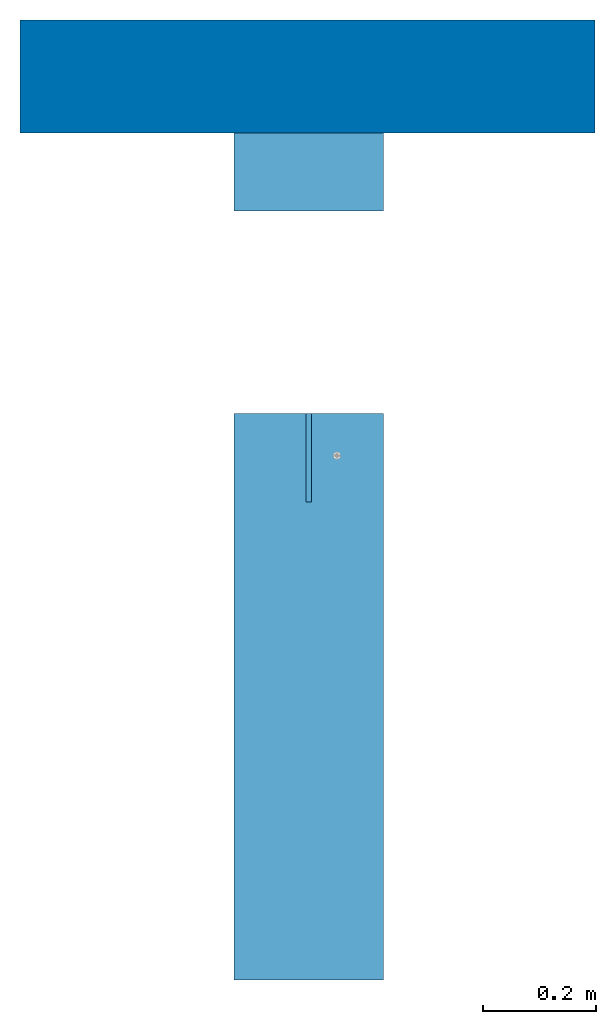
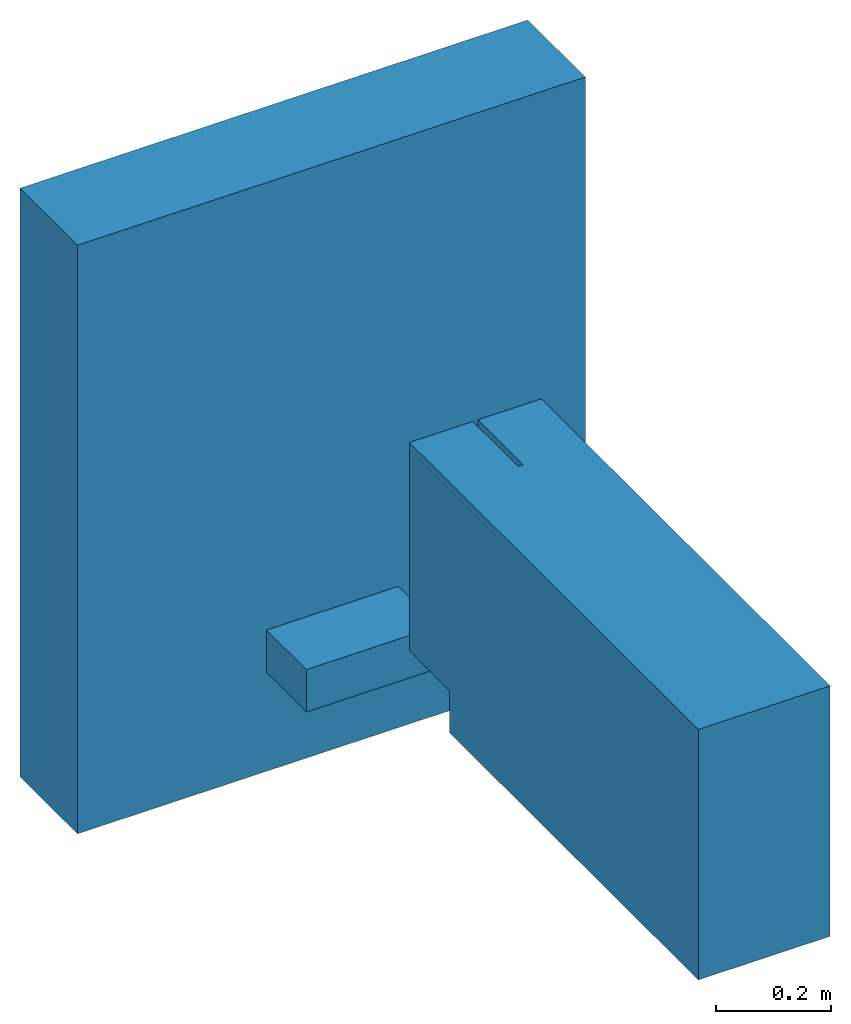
# One storey, part 1 of 2: 2 beams, 1 wall.
"""IFC2X3 building model written with IfcOpenShell, lengths in millimetres."""

from ifc_helpers import new_model, entity, si_unit, converted_unit, derived_unit, direction, frame, frame_2d, origin, place, context, subcontext, project, spatial, rectangle, extrude, faceted_brep, material, layer, layer_set, layer_usage, type_object, element, save


model = new_model("IFC2X3")

# Units and contexts
model_context = context("Model", 3, precision=0.01, world=origin(), true_north=direction((6.123031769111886e-17, 1.0)))
body_context = subcontext(model_context, "Body", "Model", "MODEL_VIEW")
ifc_project = project(units=[si_unit("LENGTHUNIT", "METRE", prefix="MILLI"), si_unit("AREAUNIT", "SQUARE_METRE"), si_unit("VOLUMEUNIT", "CUBIC_METRE"), converted_unit("PLANEANGLEUNIT", "DEGREE", entity("IfcPlaneAngleMeasure", 0.017453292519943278), si_unit("PLANEANGLEUNIT", "RADIAN"), dimensions=[0, 0, 0, 0, 0, 0, 0]), si_unit("MASSUNIT", "GRAM", prefix="KILO"), derived_unit("MASSDENSITYUNIT", [(si_unit("MASSUNIT", "GRAM", prefix="KILO"), 1), (si_unit("LENGTHUNIT", "METRE"), -3)]), derived_unit("IONCONCENTRATIONUNIT", [(si_unit("MASSUNIT", "GRAM", prefix="KILO"), 1), (si_unit("LENGTHUNIT", "METRE"), -3)]), derived_unit("MOMENTOFINERTIAUNIT", [(si_unit("LENGTHUNIT", "METRE"), 4)]), si_unit("TIMEUNIT", "SECOND"), si_unit("FREQUENCYUNIT", "HERTZ"), si_unit("THERMODYNAMICTEMPERATUREUNIT", "DEGREE_CELSIUS"), derived_unit("THERMALTRANSMITTANCEUNIT", [(si_unit("MASSUNIT", "GRAM", prefix="KILO"), 1), (si_unit("THERMODYNAMICTEMPERATUREUNIT", "KELVIN"), -1), (si_unit("TIMEUNIT", "SECOND"), -3)]), derived_unit("THERMALCONDUCTANCEUNIT", [(si_unit("MASSUNIT", "GRAM", prefix="KILO"), 1), (si_unit("THERMODYNAMICTEMPERATUREUNIT", "KELVIN"), -1), (si_unit("TIMEUNIT", "SECOND"), -3), (si_unit("LENGTHUNIT", "METRE"), 1)]), derived_unit("VOLUMETRICFLOWRATEUNIT", [(si_unit("LENGTHUNIT", "METRE", prefix="DECI"), 3), (si_unit("TIMEUNIT", "SECOND"), -1)]), derived_unit("MASSFLOWRATEUNIT", [(si_unit("MASSUNIT", "GRAM", prefix="KILO"), 1), (si_unit("TIMEUNIT", "SECOND"), -1)]), derived_unit("ROTATIONALFREQUENCYUNIT", [(si_unit("TIMEUNIT", "SECOND"), -1)]), si_unit("ELECTRICCURRENTUNIT", "AMPERE"), si_unit("ELECTRICVOLTAGEUNIT", "VOLT"), si_unit("POWERUNIT", "WATT"), si_unit("FORCEUNIT", "NEWTON", prefix="KILO"), si_unit("ILLUMINANCEUNIT", "LUX"), si_unit("LUMINOUSFLUXUNIT", "LUMEN"), si_unit("LUMINOUSINTENSITYUNIT", "CANDELA"), si_unit("ENERGYUNIT", "JOULE"), derived_unit("USERDEFINED", [(si_unit("MASSUNIT", "GRAM", prefix="KILO"), -1), (si_unit("LENGTHUNIT", "METRE"), -2), (si_unit("TIMEUNIT", "SECOND"), 3), (si_unit("LUMINOUSFLUXUNIT", "LUMEN"), 1)]), derived_unit("USERDEFINED", [(si_unit("MASSUNIT", "GRAM", prefix="KILO"), 1), (si_unit("TIMEUNIT", "SECOND"), -3), (si_unit("LENGTHUNIT", "METRE"), 3), (si_unit("ELECTRICCURRENTUNIT", "AMPERE"), -2)]), derived_unit("SOUNDPOWERUNIT", [(si_unit("MASSUNIT", "GRAM", prefix="KILO"), 1), (si_unit("TIMEUNIT", "SECOND"), -3), (si_unit("LENGTHUNIT", "METRE"), 2)]), derived_unit("SOUNDPRESSUREUNIT", [(si_unit("MASSUNIT", "GRAM", prefix="KILO"), 1), (si_unit("LENGTHUNIT", "METRE"), -1), (si_unit("TIMEUNIT", "SECOND"), -2)]), derived_unit("LINEARVELOCITYUNIT", [(si_unit("LENGTHUNIT", "METRE"), 1), (si_unit("TIMEUNIT", "SECOND"), -1)]), si_unit("PRESSUREUNIT", "PASCAL"), derived_unit("USERDEFINED", [(si_unit("MASSUNIT", "GRAM", prefix="KILO"), 1), (si_unit("LENGTHUNIT", "METRE"), -2), (si_unit("TIMEUNIT", "SECOND"), -2)]), derived_unit("LINEARFORCEUNIT", [(si_unit("MASSUNIT", "GRAM", prefix="KILO"), 1), (si_unit("TIMEUNIT", "SECOND"), -2)]), derived_unit("PLANARFORCEUNIT", [(si_unit("MASSUNIT", "GRAM", prefix="KILO"), 1), (si_unit("LENGTHUNIT", "METRE"), -1), (si_unit("TIMEUNIT", "SECOND"), -2)]), derived_unit("SPECIFICHEATCAPACITYUNIT", [(si_unit("THERMODYNAMICTEMPERATUREUNIT", "KELVIN"), -1), (si_unit("LENGTHUNIT", "METRE"), 2), (si_unit("TIMEUNIT", "SECOND"), -2)]), derived_unit("HEATFLUXDENSITYUNIT", [(si_unit("MASSUNIT", "GRAM", prefix="KILO"), 1), (si_unit("TIMEUNIT", "SECOND"), -3)]), derived_unit("HEATINGVALUEUNIT", [(si_unit("LENGTHUNIT", "METRE"), 2), (si_unit("TIMEUNIT", "SECOND"), -2)]), derived_unit("VAPORPERMEABILITYUNIT", [(si_unit("LENGTHUNIT", "METRE"), -1), (si_unit("TIMEUNIT", "SECOND"), 1)]), derived_unit("DYNAMICVISCOSITYUNIT", [(si_unit("MASSUNIT", "GRAM", prefix="KILO"), 1), (si_unit("TIMEUNIT", "SECOND"), -1), (si_unit("LENGTHUNIT", "METRE"), -1)]), derived_unit("THERMALEXPANSIONCOEFFICIENTUNIT", [(si_unit("THERMODYNAMICTEMPERATUREUNIT", "KELVIN"), -1)]), derived_unit("MODULUSOFELASTICITYUNIT", [(si_unit("MASSUNIT", "GRAM", prefix="KILO"), 1), (si_unit("LENGTHUNIT", "METRE"), -1), (si_unit("TIMEUNIT", "SECOND"), -2)]), derived_unit("ISOTHERMALMOISTURECAPACITYUNIT", [(si_unit("MASSUNIT", "GRAM", prefix="KILO"), -1), (si_unit("LENGTHUNIT", "METRE"), 3)]), derived_unit("MOISTUREDIFFUSIVITYUNIT", [(si_unit("TIMEUNIT", "SECOND"), -1), (si_unit("LENGTHUNIT", "METRE"), 2)]), derived_unit("MASSPERLENGTHUNIT", [(si_unit("MASSUNIT", "GRAM", prefix="KILO"), 1), (si_unit("LENGTHUNIT", "METRE"), -1)]), derived_unit("THERMALRESISTANCEUNIT", [(si_unit("MASSUNIT", "GRAM", prefix="KILO"), -1), (si_unit("TIMEUNIT", "SECOND"), 3), (si_unit("THERMODYNAMICTEMPERATUREUNIT", "KELVIN"), 1)]), derived_unit("ACCELERATIONUNIT", [(si_unit("LENGTHUNIT", "METRE"), 1), (si_unit("TIMEUNIT", "SECOND"), -2)]), derived_unit("ANGULARVELOCITYUNIT", [(si_unit("TIMEUNIT", "SECOND"), -1), (si_unit("PLANEANGLEUNIT", "RADIAN"), 1)]), derived_unit("LINEARSTIFFNESSUNIT", [(si_unit("MASSUNIT", "GRAM", prefix="KILO"), 1), (si_unit("TIMEUNIT", "SECOND"), -2)]), derived_unit("WARPINGCONSTANTUNIT", [(si_unit("LENGTHUNIT", "METRE"), 6)]), derived_unit("LINEARMOMENTUNIT", [(si_unit("MASSUNIT", "GRAM", prefix="KILO"), 1), (si_unit("LENGTHUNIT", "METRE"), 1), (si_unit("TIMEUNIT", "SECOND"), -2)]), derived_unit("TORQUEUNIT", [(si_unit("MASSUNIT", "GRAM", prefix="KILO"), 1), (si_unit("LENGTHUNIT", "METRE"), 2), (si_unit("TIMEUNIT", "SECOND"), -2)])], contexts=[model_context])

# Site, building, storey
site_placement = place(None, origin())
site = spatial("IfcSite", under=ifc_project, at=site_placement, Name="Default", CompositionType="ELEMENT")
building_placement = place(site_placement, origin())
building = spatial("IfcBuilding", under=site, at=building_placement, Name="Building Name", CompositionType="ELEMENT")
storey_placement = place(building_placement, frame((0.0, 0.0, 13893.0)))
storey = spatial("IfcBuildingStorey", under=building, at=storey_placement, Name="U/S SECOND FLOOR", CompositionType="ELEMENT", Elevation=13893.000000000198)

# Beams
ifc_material_1 = material(Name="Wood - GLULAM")
beam_type = type_object("IfcBeamType", Name="ISL_Heavy Timber:265x532", PredefinedType="NOTDEFINED")
beam_1_placement = place(storey_placement, frame((5445.092454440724, 14176.586825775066, -532.0), z_axis=(0.0, 0.0, 1.0), x_axis=(0.0, 1.0, 0.0)))
element("IfcBeam", 1, at=beam_1_placement, inside=storey, type_object=beam_type, material=ifc_material_1, Name="ISL_Heavy Timber:265x532", ObjectType="ISL_Heavy Timber:265x532", context=body_context, shape_type="Brep", body=[
    faceted_brep([(1005.0, -265.0, 532.0), (1005.0, -265.0, 89.87500000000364), (1005.0, 0.0, 89.87500000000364), (1005.0, 0.0, 532.0), (1005.0, -127.49999999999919, 532.0), (1005.0, -127.49999999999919, 99.0), (1005.0, -137.49999999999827, 99.0), (1005.0, -137.49999999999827, 532.0), (0.0, 0.0, 532.0), (0.0, 0.0, 0.0), (0.0, -265.0, 0.0), (0.0, -265.0, 532.0), (847.6252135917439, -137.49999999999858, 532.0), (847.6252135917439, -127.49999999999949, 532.0), (865.0, -265.0, 0.0), (865.0, -265.0, 89.87500000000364), (865.0, 0.0, 0.0), (865.0, 0.0, 89.87500000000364), (847.6252135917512, -137.49999999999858, 99.0), (847.6252135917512, -127.49999999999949, 99.0)], [[[0, 1, 2, 3, 4, 5, 6, 7]], [[8, 9, 10, 11]], [[8, 11, 0, 7, 12, 13, 4, 3]], [[11, 10, 14, 15, 1, 0]], [[10, 9, 16, 14]], [[9, 8, 3, 2, 17, 16]], [[18, 19, 13, 12]], [[19, 18, 6, 5]], [[18, 12, 7, 6]], [[13, 19, 5, 4]], [[17, 15, 14, 16]], [[15, 17, 2, 1]]]),
])
beam_2_placement = place(storey_placement, frame((5577.5924544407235, 15540.33682577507, 0.0), z_axis=(0.0, 0.0, 1.0), x_axis=(0.0, 1.0, 0.0)))
element("IfcBeam", 2, at=beam_2_placement, inside=storey, type_object=beam_type, material=ifc_material_1, Name="ISL_Heavy Timber:265x532", ObjectType="ISL_Heavy Timber:265x532", context=body_context, shape_type="SweptSolid", body=[
    extrude(rectangle(XDim=89.99999999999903, YDim=265.00000000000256, at=frame_2d((1.0835776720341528e-12, 1.6200374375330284e-12), x_axis=(1.0, 0.0))), frame((0.0, 0.0, -745.0), z_axis=(1.0, 0.0, 0.0), x_axis=(0.0, 0.0, -1.0)), (0.0, 0.0, 1.0), 138.7499999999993),
])

# Wall
ifc_material_2 = material(Name="Concrete - Cast-in-Place Concrete")
ifc_layer = layer(ifc_material_2, 200.0)
ifc_layer_set = layer_set([ifc_layer], Name="Basic Wall:200 CONCRETE")
ifc_layer_usage = layer_usage(ifc_layer_set, "AXIS2", "NEGATIVE", 100.0)
wall_type = type_object("IfcWallType", Name="Basic Wall:200 CONCRETE", PredefinedType="STANDARD", material=ifc_layer_set)
wall_placement = place(storey_placement, frame((6085.592454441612, 15779.086825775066, -1000.0), z_axis=(0.0, 0.0, 1.0), x_axis=(-1.0, 0.0, 0.0)))
element("IfcWallStandardCase", 3, at=wall_placement, inside=storey, type_object=wall_type, material=ifc_layer_usage, Name="Basic Wall:200 CONCRETE", ObjectType="Basic Wall:200 CONCRETE", context=body_context, shape_type="SweptSolid", body=[
    extrude(rectangle(XDim=1019.9999999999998, YDim=199.99999999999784, at=frame_2d((509.9999999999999, 3.410605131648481e-13), x_axis=(-1.0, 0.0))), origin(), (0.0, 0.0, 1.0), 1249.9999999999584),
])

save(model, "model.ifc")
